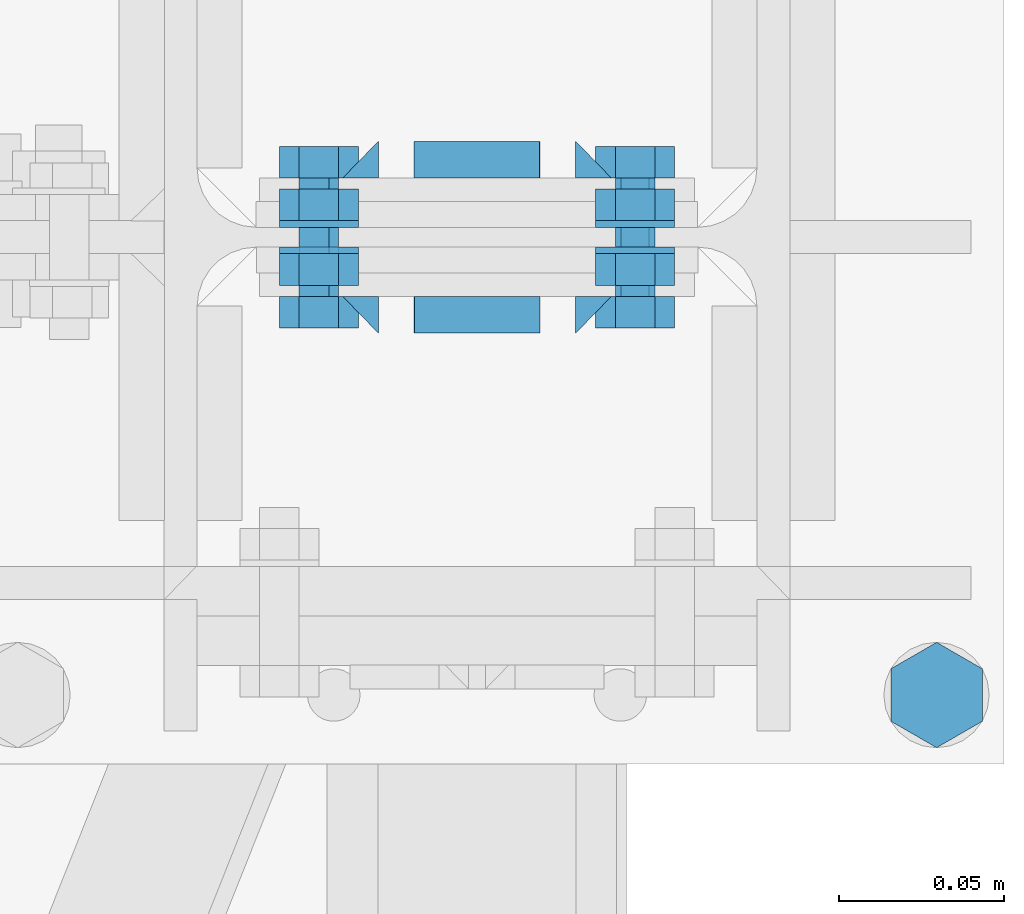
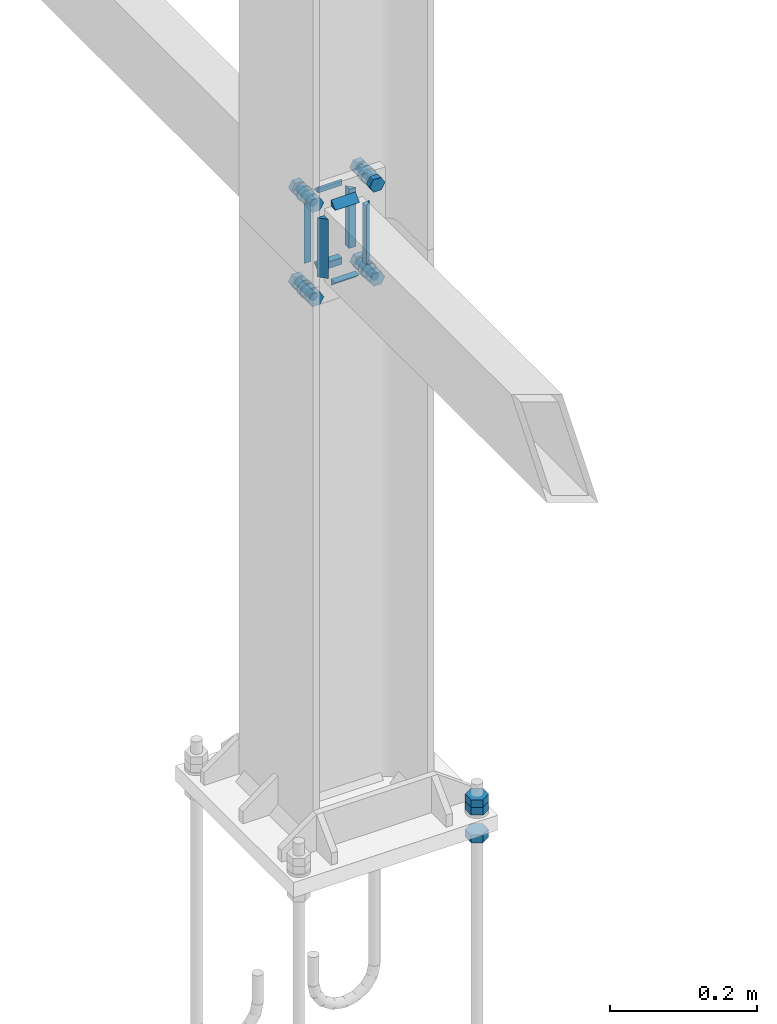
# One storey, part 113 of 251: 34 mechanical fasteners, 16 fasteners.
"""IFC4 building model written with IfcOpenShell, lengths in metres."""

import ifcopenshell
import ifcopenshell.guid

model = None  # the IFC model being written
_history = None  # IfcOwnerHistory: only IFC2X3 demands one
_inside = {}  # id of a spatial element -> (the spatial element, [elements in it])
_under = {}  # id of a project, library or spatial element -> (it, [spatial elements below it])
_declared = {}  # id of a project -> (the project, [libraries it declares])
_typed = {}  # id of a type object -> (the type object, [elements of that type])
_made_of = {}  # id of a material, layer set ... -> (it, [elements and type objects made of it])


def new_model(schema):
    """Start an empty IFC model of exactly this schema.

    Asked for "IFC4X3", IfcOpenShell would pick the latest addendum, in which some entities
    have other attributes; the version numbers below select the first issue.
    IFC2X3 requires an IfcOwnerHistory on every rooted entity: one is made here for all.
    """
    global model, _history
    if schema == "IFC4X3":
        model = ifcopenshell.file(schema_version=(4, 3, 0, 0))
    else:
        model = ifcopenshell.file(schema=schema)
    _inside.clear()
    _under.clear()
    _declared.clear()
    _typed.clear()
    _made_of.clear()
    _history = None
    if model.schema == "IFC2X3":
        org = make("IfcOrganization", Name="unknown")
        user = make(
            "IfcPersonAndOrganization",
            ThePerson=make("IfcPerson", FamilyName="unknown"),
            TheOrganization=org,
        )
        app = make(
            "IfcApplication",
            ApplicationDeveloper=org,
            Version="unknown",
            ApplicationFullName="unknown",
            ApplicationIdentifier="unknown",
        )
        _history = make(
            "IfcOwnerHistory",
            OwningUser=user,
            OwningApplication=app,
            ChangeAction="ADDED",
            CreationDate=0,
        )
    return model


def make(cls, **values):
    """One entity of the class cls with the attributes given. An attribute that is None is left unset."""
    return model.create_entity(
        cls, **{name: value for name, value in values.items() if value is not None}
    )


def rooted(cls, **values):
    """An entity with a GlobalId (a new one), such as an element, a storey or a relation."""
    return make(cls, GlobalId=ifcopenshell.guid.new(), OwnerHistory=_history, **values)


def si_unit(unit_type, name, prefix=None):
    """IfcSIUnit, for example si_unit("LENGTHUNIT", "METRE", prefix="MILLI")."""
    return make("IfcSIUnit", UnitType=unit_type, Prefix=prefix, Name=name)


def assignment(units):
    """IfcUnitAssignment: the units of a project."""
    return None if units is None else make("IfcUnitAssignment", Units=units)


def point(xyz):
    """IfcCartesianPoint."""
    return None if xyz is None else make("IfcCartesianPoint", Coordinates=xyz)


def direction(xyz):
    """IfcDirection."""
    return None if xyz is None else make("IfcDirection", DirectionRatios=xyz)


def frame(location, z_axis=None, x_axis=None):
    """IfcAxis2Placement3D, a coordinate frame: its origin and axes. An axis left out is left unset."""
    return make(
        "IfcAxis2Placement3D",
        Location=point(location),
        Axis=direction(z_axis),
        RefDirection=direction(x_axis),
    )


def origin_with_axes():
    """The frame at (0, 0, 0) with the z axis (0, 0, 1) and the x axis (1, 0, 0) written out."""
    return frame((0.0, 0.0, 0.0), z_axis=(0.0, 0.0, 1.0), x_axis=(1.0, 0.0, 0.0))


def place(relative_to, where):
    """IfcLocalPlacement: puts the frame where relative to a parent placement (None: the world)."""
    return make(
        "IfcLocalPlacement", PlacementRelTo=relative_to, RelativePlacement=where
    )


def context(
    kind, dimensions, precision=None, world=None, true_north=None, identifier=None
):
    """IfcGeometricRepresentationContext, for example the 3D "Model" context."""
    return make(
        "IfcGeometricRepresentationContext",
        ContextIdentifier=identifier,
        ContextType=kind,
        CoordinateSpaceDimension=dimensions,
        Precision=precision,
        WorldCoordinateSystem=world,
        TrueNorth=true_north,
    )


def project(units=None, contexts=None):
    """IfcProject with its units and contexts."""
    return rooted(
        "IfcProject",
        Name="project",
        RepresentationContexts=contexts,
        UnitsInContext=assignment(units),
    )


def spatial(cls, under=None, at=None, **own):
    """A site, building, storey or space (cls), placed at a placement, below another one or the project."""
    s = rooted(cls, ObjectPlacement=at, **own)
    if under is not None:
        _under.setdefault(under.id(), (under, []))[1].append(s)
    return s


def polyline(points):
    """IfcPolyline through the points."""
    return make("IfcPolyline", Points=[point(p) for p in points])


def outline(outer, holes=None, kind="AREA"):
    """IfcArbitraryClosedProfileDef: a profile drawn as a closed curve; with holes, ...WithVoids."""
    if holes is None:
        return make("IfcArbitraryClosedProfileDef", ProfileType=kind, OuterCurve=outer)
    return make(
        "IfcArbitraryProfileDefWithVoids",
        ProfileType=kind,
        OuterCurve=outer,
        InnerCurves=holes,
    )


def extrude(swept, where, along, depth):
    """IfcExtrudedAreaSolid: the profile swept, set in the frame where, extruded along a direction by depth."""
    return make(
        "IfcExtrudedAreaSolid",
        SweptArea=swept,
        Position=where,
        ExtrudedDirection=direction(along),
        Depth=depth,
    )


def shape(context_of_items, identifier, shape_type, items):
    """IfcShapeRepresentation: the items that make up one representation, for example the "Body"."""
    return make(
        "IfcShapeRepresentation",
        ContextOfItems=context_of_items,
        RepresentationIdentifier=identifier,
        RepresentationType=shape_type,
        Items=items,
    )


def made_of(thing, what):
    """Note that an element or type object is made of a material, layer set ...; save() writes the relation."""
    if what is not None:
        _made_of.setdefault(what.id(), (what, []))[1].append(thing)
    return thing


def type_object(cls, material=None, **own):
    """A type object (cls), such as IfcWallType, which elements share."""
    return made_of(rooted(cls, **own), material)


def element(
    cls,
    number,
    at=None,
    inside=None,
    cuts=None,
    type_object=None,
    material=None,
    context=None,
    identifier="Body",
    shape_type=None,
    held_by="IfcProductDefinitionShape",
    body=None,
    shapes=None,
    **own,
):
    """One element of the class cls, such as IfcWall. Its Tag is "e" and its number.

    at: its placement. inside: the storey or other place that contains it. cuts: it is an
    opening in that element (IfcRelVoidsElement). A single representation is given by context,
    identifier, shape_type and body (its items); several are given by shapes. held_by: the class
    of the entity that holds the representations. save() writes the other relations.
    """
    e = rooted(cls, Tag="e%d" % number, ObjectPlacement=at, **own)
    if body is not None:
        shapes = [shape(context, identifier, shape_type, body)]
    if shapes is not None:
        e.Representation = make(held_by, Representations=shapes)
    if inside is not None:
        _inside.setdefault(inside.id(), (inside, []))[1].append(e)
    if cuts is not None:
        rooted(
            "IfcRelVoidsElement", RelatingBuildingElement=cuts, RelatedOpeningElement=e
        )
    if type_object is not None:
        _typed.setdefault(type_object.id(), (type_object, []))[1].append(e)
    return made_of(e, material)


def aggregate(whole, parts):
    """IfcRelAggregates: a whole, such as a stair, and the parts it consists of."""
    return rooted("IfcRelAggregates", RelatingObject=whole, RelatedObjects=parts)


def save(model, path):
    """Write the relations noted so far, then the file.

    IfcRelAggregates (storeys below a building ...), IfcRelContainedInSpatialStructure (elements
    in a storey), IfcRelDefinesByType, IfcRelAssociatesMaterial and IfcRelDeclares: one each for
    every whole, place, type object, material and project.
    """
    for whole, parts in _under.values():
        aggregate(whole, parts)
    for where, things in _inside.values():
        rooted(
            "IfcRelContainedInSpatialStructure",
            RelatedElements=things,
            RelatingStructure=where,
        )
    for kind, things in _typed.values():
        rooted("IfcRelDefinesByType", RelatedObjects=things, RelatingType=kind)
    for what, things in _made_of.values():
        rooted("IfcRelAssociatesMaterial", RelatedObjects=things, RelatingMaterial=what)
    for by, libraries in _declared.values():
        rooted("IfcRelDeclares", RelatingContext=by, RelatedDefinitions=libraries)
    model.write(path)


model = new_model("IFC4")

# Units and contexts
model_context = context("Model", 3, precision=1e-05, world=origin_with_axes())
ifc_project = project(units=[si_unit("LENGTHUNIT", "METRE"), si_unit("AREAUNIT", "SQUARE_METRE"), si_unit("VOLUMEUNIT", "CUBIC_METRE"), si_unit("MASSUNIT", "GRAM", prefix="KILO"), si_unit("TIMEUNIT", "SECOND"), si_unit("PLANEANGLEUNIT", "RADIAN"), si_unit("SOLIDANGLEUNIT", "STERADIAN"), si_unit("THERMODYNAMICTEMPERATUREUNIT", "DEGREE_CELSIUS")], contexts=[model_context])

# Site, building, storey
placement_1 = place(None, origin_with_axes())
site = spatial("IfcSite", under=ifc_project, at=placement_1, Name="Italia", CompositionType="ELEMENT")
building = spatial("IfcBuilding", under=site, at=placement_1, Name="Deposito", CompositionType="ELEMENT")
storey = spatial("IfcBuildingStorey", under=building, at=placement_1, Name="Storey 0", CompositionType="ELEMENT", Elevation=0.0)

# Fasteners
fastener_type_1 = type_object("IfcFastenerType", Name="Collegamenti -001_-002 -002_-001 -002_-003 -003_-002 -003_-004 -004_-003 -004_-008 -008_-004 -009_-010 -010_-009 -010_-011 -011_-010 -011_-012 -012_-011 -012_-016 -016_-012", PredefinedType="WELD")
placement_2 = place(placement_1, origin_with_axes())
fastener_1_placement = place(placement_2, origin_with_axes())
element("IfcFastener", 1, at=fastener_1_placement, inside=storey, type_object=fastener_type_1, Name="Collegamenti -001_-002 -002_-001 -002_-003 -003_-002 -003_-004 -004_-003 -004_-008 -008_-004 -009_-010 -010_-009 -010_-011 -011_-010 -011_-012 -012_-011 -012_-016 -016_-012", context=model_context, shape_type="SweptSolid", body=[
    extrude(outline(polyline([(0.0, 0.0), (0.0111732, -0.0108382), (0.0, -0.0108382), (0.0, 0.0)])), frame((20.0191, 4.98205, 1.07079), z_axis=(-1.0, 0.0, 0.0), x_axis=(0.0, -1.0, 0.0)), (0.0, 0.0, 1.0), 0.0381012),
])
fastener_type_2 = type_object("IfcFastenerType", Name="Collegamenti -001_-002 -002_-001 -002_-003 -003_-002 -003_-004 -004_-003 -004_-008 -008_-004 -009_-010 -010_-009 -010_-011 -011_-010 -011_-012 -012_-011 -012_-016 -016_-012", PredefinedType="WELD")
fastener_2_placement = place(placement_2, origin_with_axes())
element("IfcFastener", 2, at=fastener_2_placement, inside=storey, type_object=fastener_type_2, Name="Collegamenti -001_-002 -002_-001 -002_-003 -003_-002 -003_-004 -004_-003 -004_-008 -008_-004 -009_-010 -010_-009 -010_-011 -011_-010 -011_-012 -012_-011 -012_-016 -016_-012", context=model_context, shape_type="SweptSolid", body=[
    extrude(outline(polyline([(0.0, 0.0), (-0.0111732, 0.0108376), (0.0, 0.0108376), (0.0, 0.0)])), frame((20.0408, 4.98205, 0.95095), z_axis=(0.0, 0.0, 1.0), x_axis=(0.0, 1.0, 0.0)), (0.0, 0.0, 1.0), 0.0980999),
])
fastener_type_3 = type_object("IfcFastenerType", Name="Collegamenti -001_-002 -002_-001 -002_-003 -003_-002 -003_-004 -004_-003 -004_-008 -008_-004 -009_-010 -010_-009 -010_-011 -011_-010 -011_-012 -012_-011 -012_-016 -016_-012", PredefinedType="WELD")
fastener_3_placement = place(placement_2, origin_with_axes())
element("IfcFastener", 3, at=fastener_3_placement, inside=storey, type_object=fastener_type_3, Name="Collegamenti -001_-002 -002_-001 -002_-003 -003_-002 -003_-004 -004_-003 -004_-008 -008_-004 -009_-010 -010_-009 -010_-011 -011_-010 -011_-012 -012_-011 -012_-016 -016_-012", context=model_context, shape_type="SweptSolid", body=[
    extrude(outline(polyline([(0.0, 0.0), (-0.0111732, 0.0108376), (0.0, 0.0108376), (0.0, 0.0)])), frame((19.9592, 4.98205, 1.04905), z_axis=(0.0, 0.0, -1.0), x_axis=(0.0, 1.0, 0.0)), (0.0, 0.0, 1.0), 0.0980999),
])
fastener_type_4 = type_object("IfcFastenerType", Name="Collegamenti -001_-002 -002_-001 -002_-003 -003_-002 -003_-004 -004_-003 -004_-008 -008_-004 -009_-010 -010_-009 -010_-011 -011_-010 -011_-012 -012_-011 -012_-016 -016_-012", PredefinedType="WELD")
fastener_4_placement = place(placement_2, origin_with_axes())
element("IfcFastener", 4, at=fastener_4_placement, inside=storey, type_object=fastener_type_4, Name="Collegamenti -001_-002 -002_-001 -002_-003 -003_-002 -003_-004 -004_-003 -004_-008 -008_-004 -009_-010 -010_-009 -010_-011 -011_-010 -011_-012 -012_-011 -012_-016 -016_-012", context=model_context, shape_type="SweptSolid", body=[
    extrude(outline(polyline([(0.0, 0.0), (-0.0111732, 0.0108382), (0.0, 0.0108382), (0.0, 0.0)])), frame((19.9809, 4.98205, 0.929212), z_axis=(1.0, 0.0, 0.0), x_axis=(0.0, 1.0, 0.0)), (0.0, 0.0, 1.0), 0.0381012),
])
fastener_type_5 = type_object("IfcFastenerType", Name="Collegamenti -001_-002 -002_-001 -002_-003 -003_-002 -003_-004 -004_-003 -004_-008 -008_-004 -009_-010 -010_-009 -010_-011 -011_-010 -011_-012 -012_-011 -012_-016 -016_-012", PredefinedType="WELD")
fastener_5_placement = place(placement_2, origin_with_axes())
element("IfcFastener", 5, at=fastener_5_placement, inside=storey, type_object=fastener_type_5, Name="Collegamenti -001_-002 -002_-001 -002_-003 -003_-002 -003_-004 -004_-003 -004_-008 -008_-004 -009_-010 -010_-009 -010_-011 -011_-010 -011_-012 -012_-011 -012_-016 -016_-012", context=model_context, shape_type="SweptSolid", body=[
    extrude(outline(polyline([(0.0, 0.0), (0.0111732, -0.0108382), (0.0, -0.0108382), (0.0, 0.0)])), frame((20.0191, 4.98205, 1.07079), z_axis=(-1.0, 0.0, 0.0), x_axis=(0.0, -1.0, 0.0)), (0.0, 0.0, 1.0), 0.0381012),
])
fastener_type_6 = type_object("IfcFastenerType", Name="Collegamenti -001_-002 -002_-001 -002_-003 -003_-002 -003_-004 -004_-003 -004_-008 -008_-004 -009_-010 -010_-009 -010_-011 -011_-010 -011_-012 -012_-011 -012_-016 -016_-012", PredefinedType="WELD")
fastener_6_placement = place(placement_2, origin_with_axes())
element("IfcFastener", 6, at=fastener_6_placement, inside=storey, type_object=fastener_type_6, Name="Collegamenti -001_-002 -002_-001 -002_-003 -003_-002 -003_-004 -004_-003 -004_-008 -008_-004 -009_-010 -010_-009 -010_-011 -011_-010 -011_-012 -012_-011 -012_-016 -016_-012", context=model_context, shape_type="SweptSolid", body=[
    extrude(outline(polyline([(0.0, 0.0), (-0.0111732, 0.0108376), (0.0, 0.0108376), (0.0, 0.0)])), frame((20.0408, 4.98205, 0.95095), z_axis=(0.0, 0.0, 1.0), x_axis=(0.0, 1.0, 0.0)), (0.0, 0.0, 1.0), 0.0980999),
])
fastener_type_7 = type_object("IfcFastenerType", Name="Collegamenti -001_-002 -002_-001 -002_-003 -003_-002 -003_-004 -004_-003 -004_-008 -008_-004 -009_-010 -010_-009 -010_-011 -011_-010 -011_-012 -012_-011 -012_-016 -016_-012", PredefinedType="WELD")
fastener_7_placement = place(placement_2, origin_with_axes())
element("IfcFastener", 7, at=fastener_7_placement, inside=storey, type_object=fastener_type_7, Name="Collegamenti -001_-002 -002_-001 -002_-003 -003_-002 -003_-004 -004_-003 -004_-008 -008_-004 -009_-010 -010_-009 -010_-011 -011_-010 -011_-012 -012_-011 -012_-016 -016_-012", context=model_context, shape_type="SweptSolid", body=[
    extrude(outline(polyline([(0.0, 0.0), (-0.0111732, 0.0108376), (0.0, 0.0108376), (0.0, 0.0)])), frame((19.9592, 4.98205, 1.04905), z_axis=(0.0, 0.0, -1.0), x_axis=(0.0, 1.0, 0.0)), (0.0, 0.0, 1.0), 0.0980999),
])
fastener_type_8 = type_object("IfcFastenerType", Name="Collegamenti -001_-002 -002_-001 -002_-003 -003_-002 -003_-004 -004_-003 -004_-008 -008_-004 -009_-010 -010_-009 -010_-011 -011_-010 -011_-012 -012_-011 -012_-016 -016_-012", PredefinedType="WELD")
fastener_8_placement = place(placement_2, origin_with_axes())
element("IfcFastener", 8, at=fastener_8_placement, inside=storey, type_object=fastener_type_8, Name="Collegamenti -001_-002 -002_-001 -002_-003 -003_-002 -003_-004 -004_-003 -004_-008 -008_-004 -009_-010 -010_-009 -010_-011 -011_-010 -011_-012 -012_-011 -012_-016 -016_-012", context=model_context, shape_type="SweptSolid", body=[
    extrude(outline(polyline([(0.0, 0.0), (-0.0111732, 0.0108382), (0.0, 0.0108382), (0.0, 0.0)])), frame((19.9809, 4.98205, 0.929212), z_axis=(1.0, 0.0, 0.0), x_axis=(0.0, 1.0, 0.0)), (0.0, 0.0, 1.0), 0.0381012),
])

# Mechanical fasteners
mechanical_fastener_type_1 = type_object("IfcMechanicalFastenerType", Name="Collegamenti -001_-002 -002_-001 -002_-003 -003_-002 -003_-004 -004_-003 -004_-008 -008_-004 -009_-010 -010_-009 -010_-011 -011_-010 -011_-012 -012_-011 -012_-016 -016_-012", PredefinedType="BOLT")
mechanical_fastener_1_placement = place(placement_2, origin_with_axes())
element("IfcMechanicalFastener", 9, at=mechanical_fastener_1_placement, inside=storey, type_object=mechanical_fastener_type_1, Name="Collegamenti -001_-002 -002_-001 -002_-003 -003_-002 -003_-004 -004_-003 -004_-008 -008_-004 -009_-010 -010_-009 -010_-011 -011_-010 -011_-012 -012_-011 -012_-016 -016_-012", NominalDiameter=0.0119993, context=model_context, shape_type="SweptSolid", body=[
    extrude(outline(polyline([(0.0, 0.0), (-0.012001, 0.0), (-0.0179996, 0.0103923), (-0.012001, 0.0207846), (0.0, 0.0207846), (0.00600052, 0.0103923), (0.0, 0.0)])), frame((19.958, 4.982, 0.911608), z_axis=(0.0, -1.0, 0.0), x_axis=(1.0, 0.0, 0.0)), (0.0, 0.0, 1.0), 0.00959969),
])
mechanical_fastener_type_2 = type_object("IfcMechanicalFastenerType", Name="Collegamenti -001_-002 -002_-001 -002_-003 -003_-002 -003_-004 -004_-003 -004_-008 -008_-004 -009_-010 -010_-009 -010_-011 -011_-010 -011_-012 -012_-011 -012_-016 -016_-012", PredefinedType="BOLT")
mechanical_fastener_2_placement = place(placement_2, origin_with_axes())
element("IfcMechanicalFastener", 10, at=mechanical_fastener_2_placement, inside=storey, type_object=mechanical_fastener_type_2, Name="Collegamenti -001_-002 -002_-001 -002_-003 -003_-002 -003_-004 -004_-003 -004_-008 -008_-004 -009_-010 -010_-009 -010_-011 -011_-010 -011_-012 -012_-011 -012_-016 -016_-012", NominalDiameter=0.012, context=model_context, shape_type="SweptSolid", body=[
    extrude(outline(polyline([(0.0, 0.0), (-0.000204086, -0.00155294), (-0.000804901, -0.00300002), (-0.00175858, -0.00424266), (-0.00300026, -0.00519615), (-0.00444794, -0.00579554), (-0.00600052, -0.00599998), (-0.0075531, -0.00579554), (-0.00900078, -0.00519615), (-0.0102425, -0.00424266), (-0.0111961, -0.00300002), (-0.011797, -0.00155294), (-0.012001, 0.0), (-0.011797, 0.00155294), (-0.0111961, 0.00300002), (-0.0102425, 0.00424266), (-0.00900078, 0.00519615), (-0.0075531, 0.00579554), (-0.00600052, 0.00599998), (-0.00444794, 0.00579554), (-0.00300026, 0.00519615), (-0.00175858, 0.00424266), (-0.000804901, 0.00300002), (-0.000204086, 0.00155294), (0.0, 0.0)])), frame((19.958, 5.021, 0.922), z_axis=(0.0, -1.0, 0.0), x_axis=(1.0, 0.0, 0.0)), (0.0, 0.0, 1.0), 0.039),
])
mechanical_fastener_type_3 = type_object("IfcMechanicalFastenerType", Name="Collegamenti -001_-002 -002_-001 -002_-003 -003_-002 -003_-004 -004_-003 -004_-008 -008_-004 -009_-010 -010_-009 -010_-011 -011_-010 -011_-012 -012_-011 -012_-016 -016_-012", PredefinedType="BOLT")
mechanical_fastener_3_placement = place(placement_2, origin_with_axes())
element("IfcMechanicalFastener", 11, at=mechanical_fastener_3_placement, inside=storey, type_object=mechanical_fastener_type_3, Name="Collegamenti -001_-002 -002_-001 -002_-003 -003_-002 -003_-004 -004_-003 -004_-008 -008_-004 -009_-010 -010_-009 -010_-011 -011_-010 -011_-012 -012_-011 -012_-016 -016_-012", NominalDiameter=0.0119993, context=model_context, shape_type="SweptSolid", body=[
    extrude(outline(polyline([(0.0, 0.0), (-0.012001, 0.0), (-0.0179996, 0.0103923), (-0.012001, 0.0207846), (0.0, 0.0207846), (0.00600052, 0.0103923), (0.0, 0.0)])), frame((19.958, 5.0146, 0.911608), z_axis=(0.0, -1.0, 0.0), x_axis=(1.0, 0.0, 0.0)), (0.0, 0.0, 1.0), 0.00959969),
])
mechanical_fastener_type_4 = type_object("IfcMechanicalFastenerType", Name="Collegamenti -001_-002 -002_-001 -002_-003 -003_-002 -003_-004 -004_-003 -004_-008 -008_-004 -009_-010 -010_-009 -010_-011 -011_-010 -011_-012 -012_-011 -012_-016 -016_-012", PredefinedType="BOLT")
mechanical_fastener_4_placement = place(placement_2, origin_with_axes())
element("IfcMechanicalFastener", 12, at=mechanical_fastener_4_placement, inside=storey, type_object=mechanical_fastener_type_4, Name="Collegamenti -001_-002 -002_-001 -002_-003 -003_-002 -003_-004 -004_-003 -004_-008 -008_-004 -009_-010 -010_-009 -010_-011 -011_-010 -011_-012 -012_-011 -012_-016 -016_-012", NominalDiameter=0.024, context=model_context, shape_type="SweptSolid", body=[
    extrude(outline(polyline([(0.0, 0.0), (-0.000408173, -0.00310582), (-0.00160599, -0.00599998), (-0.00351334, -0.00848526), (-0.00599861, -0.0103923), (-0.00889397, -0.0115911), (-0.0119991, -0.012), (-0.0151043, -0.0115911), (-0.0179996, -0.0103923), (-0.0204849, -0.00848526), (-0.0223923, -0.00599998), (-0.0235901, -0.00310582), (-0.0239983, 0.0), (-0.0235901, 0.00310582), (-0.0223923, 0.00599998), (-0.0204849, 0.00848526), (-0.0179996, 0.0103923), (-0.0151043, 0.0115911), (-0.0119991, 0.012), (-0.00889397, 0.0115911), (-0.00599861, 0.0103923), (-0.00351334, 0.00848526), (-0.00160599, 0.00599998), (-0.000408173, 0.00310582), (0.0, 0.0)])), frame((19.964, 5.005, 0.922), z_axis=(0.0, -1.0, 0.0), x_axis=(1.0, 0.0, 0.0)), (0.0, 0.0, 1.0), 0.00200033),
])
mechanical_fastener_type_5 = type_object("IfcMechanicalFastenerType", Name="Collegamenti -001_-002 -002_-001 -002_-003 -003_-002 -003_-004 -004_-003 -004_-008 -008_-004 -009_-010 -010_-009 -010_-011 -011_-010 -011_-012 -012_-011 -012_-016 -016_-012", PredefinedType="BOLT")
mechanical_fastener_5_placement = place(placement_2, origin_with_axes())
element("IfcMechanicalFastener", 13, at=mechanical_fastener_5_placement, inside=storey, type_object=mechanical_fastener_type_5, Name="Collegamenti -001_-002 -002_-001 -002_-003 -003_-002 -003_-004 -004_-003 -004_-008 -008_-004 -009_-010 -010_-009 -010_-011 -011_-010 -011_-012 -012_-011 -012_-016 -016_-012", NominalDiameter=0.0119993, context=model_context, shape_type="SweptSolid", body=[
    extrude(outline(polyline([(0.0, 0.0), (-0.012001, 0.0), (-0.0180016, 0.0103923), (-0.012001, 0.0207846), (0.0, 0.0207846), (0.00599861, 0.0103923), (0.0, 0.0)])), frame((20.054, 4.982, 0.911608), z_axis=(0.0, -1.0, 0.0), x_axis=(1.0, 0.0, 0.0)), (0.0, 0.0, 1.0), 0.00959969),
])
mechanical_fastener_type_6 = type_object("IfcMechanicalFastenerType", Name="Collegamenti -001_-002 -002_-001 -002_-003 -003_-002 -003_-004 -004_-003 -004_-008 -008_-004 -009_-010 -010_-009 -010_-011 -011_-010 -011_-012 -012_-011 -012_-016 -016_-012", PredefinedType="BOLT")
mechanical_fastener_6_placement = place(placement_2, origin_with_axes())
element("IfcMechanicalFastener", 14, at=mechanical_fastener_6_placement, inside=storey, type_object=mechanical_fastener_type_6, Name="Collegamenti -001_-002 -002_-001 -002_-003 -003_-002 -003_-004 -004_-003 -004_-008 -008_-004 -009_-010 -010_-009 -010_-011 -011_-010 -011_-012 -012_-011 -012_-016 -016_-012", NominalDiameter=0.012, context=model_context, shape_type="SweptSolid", body=[
    extrude(outline(polyline([(0.0, 0.0), (-0.000204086, -0.00155294), (-0.000804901, -0.00300002), (-0.00175858, -0.00424266), (-0.00300026, -0.00519615), (-0.00444794, -0.00579554), (-0.00600052, -0.00599998), (-0.0075531, -0.00579554), (-0.00900078, -0.00519615), (-0.0102425, -0.00424266), (-0.0111961, -0.00300002), (-0.011797, -0.00155294), (-0.012001, 0.0), (-0.011797, 0.00155294), (-0.0111961, 0.00300002), (-0.0102425, 0.00424266), (-0.00900078, 0.00519615), (-0.0075531, 0.00579554), (-0.00600052, 0.00599998), (-0.00444794, 0.00579554), (-0.00300026, 0.00519615), (-0.00175858, 0.00424266), (-0.000804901, 0.00300002), (-0.000204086, 0.00155294), (0.0, 0.0)])), frame((20.054, 5.021, 0.922), z_axis=(0.0, -1.0, 0.0), x_axis=(1.0, 0.0, 0.0)), (0.0, 0.0, 1.0), 0.039),
])
mechanical_fastener_type_7 = type_object("IfcMechanicalFastenerType", Name="Collegamenti -001_-002 -002_-001 -002_-003 -003_-002 -003_-004 -004_-003 -004_-008 -008_-004 -009_-010 -010_-009 -010_-011 -011_-010 -011_-012 -012_-011 -012_-016 -016_-012", PredefinedType="BOLT")
mechanical_fastener_7_placement = place(placement_2, origin_with_axes())
element("IfcMechanicalFastener", 15, at=mechanical_fastener_7_placement, inside=storey, type_object=mechanical_fastener_type_7, Name="Collegamenti -001_-002 -002_-001 -002_-003 -003_-002 -003_-004 -004_-003 -004_-008 -008_-004 -009_-010 -010_-009 -010_-011 -011_-010 -011_-012 -012_-011 -012_-016 -016_-012", NominalDiameter=0.0119993, context=model_context, shape_type="SweptSolid", body=[
    extrude(outline(polyline([(0.0, 0.0), (-0.012001, 0.0), (-0.0180016, 0.0103923), (-0.012001, 0.0207846), (0.0, 0.0207846), (0.00599861, 0.0103923), (0.0, 0.0)])), frame((20.054, 5.0146, 0.911608), z_axis=(0.0, -1.0, 0.0), x_axis=(1.0, 0.0, 0.0)), (0.0, 0.0, 1.0), 0.00959969),
])
mechanical_fastener_type_8 = type_object("IfcMechanicalFastenerType", Name="Collegamenti -001_-002 -002_-001 -002_-003 -003_-002 -003_-004 -004_-003 -004_-008 -008_-004 -009_-010 -010_-009 -010_-011 -011_-010 -011_-012 -012_-011 -012_-016 -016_-012", PredefinedType="BOLT")
mechanical_fastener_8_placement = place(placement_2, origin_with_axes())
element("IfcMechanicalFastener", 16, at=mechanical_fastener_8_placement, inside=storey, type_object=mechanical_fastener_type_8, Name="Collegamenti -001_-002 -002_-001 -002_-003 -003_-002 -003_-004 -004_-003 -004_-008 -008_-004 -009_-010 -010_-009 -010_-011 -011_-010 -011_-012 -012_-011 -012_-016 -016_-012", NominalDiameter=0.024, context=model_context, shape_type="SweptSolid", body=[
    extrude(outline(polyline([(0.0, 0.0), (-0.000408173, -0.00310582), (-0.00160599, -0.00599998), (-0.00351334, -0.00848526), (-0.00599861, -0.0103923), (-0.00889397, -0.0115911), (-0.0119991, -0.012), (-0.0151043, -0.0115911), (-0.0179996, -0.0103923), (-0.0204849, -0.00848526), (-0.0223923, -0.00599998), (-0.0235901, -0.00310582), (-0.0239983, 0.0), (-0.0235901, 0.00310582), (-0.0223923, 0.00599998), (-0.0204849, 0.00848526), (-0.0179996, 0.0103923), (-0.0151043, 0.0115911), (-0.0119991, 0.012), (-0.00889397, 0.0115911), (-0.00599861, 0.0103923), (-0.00351334, 0.00848526), (-0.00160599, 0.00599998), (-0.000408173, 0.00310582), (0.0, 0.0)])), frame((20.06, 5.005, 0.922), z_axis=(0.0, -1.0, 0.0), x_axis=(1.0, 0.0, 0.0)), (0.0, 0.0, 1.0), 0.00200033),
])
mechanical_fastener_type_9 = type_object("IfcMechanicalFastenerType", Name="Collegamenti -001_-002 -002_-001 -002_-003 -003_-002 -003_-004 -004_-003 -004_-008 -008_-004 -009_-010 -010_-009 -010_-011 -011_-010 -011_-012 -012_-011 -012_-016 -016_-012", PredefinedType="BOLT")
mechanical_fastener_9_placement = place(placement_2, origin_with_axes())
element("IfcMechanicalFastener", 17, at=mechanical_fastener_9_placement, inside=storey, type_object=mechanical_fastener_type_9, Name="Collegamenti -001_-002 -002_-001 -002_-003 -003_-002 -003_-004 -004_-003 -004_-008 -008_-004 -009_-010 -010_-009 -010_-011 -011_-010 -011_-012 -012_-011 -012_-016 -016_-012", NominalDiameter=0.0119993, context=model_context, shape_type="SweptSolid", body=[
    extrude(outline(polyline([(0.0, 0.0), (-0.012001, 0.0), (-0.0179996, 0.0103923), (-0.012001, 0.0207846), (0.0, 0.0207846), (0.00600052, 0.0103923), (0.0, 0.0)])), frame((19.958, 4.982, 1.06761), z_axis=(0.0, -1.0, 0.0), x_axis=(1.0, 0.0, 0.0)), (0.0, 0.0, 1.0), 0.00959969),
])
mechanical_fastener_type_10 = type_object("IfcMechanicalFastenerType", Name="Collegamenti -001_-002 -002_-001 -002_-003 -003_-002 -003_-004 -004_-003 -004_-008 -008_-004 -009_-010 -010_-009 -010_-011 -011_-010 -011_-012 -012_-011 -012_-016 -016_-012", PredefinedType="BOLT")
mechanical_fastener_10_placement = place(placement_2, origin_with_axes())
element("IfcMechanicalFastener", 18, at=mechanical_fastener_10_placement, inside=storey, type_object=mechanical_fastener_type_10, Name="Collegamenti -001_-002 -002_-001 -002_-003 -003_-002 -003_-004 -004_-003 -004_-008 -008_-004 -009_-010 -010_-009 -010_-011 -011_-010 -011_-012 -012_-011 -012_-016 -016_-012", NominalDiameter=0.012, context=model_context, shape_type="SweptSolid", body=[
    extrude(outline(polyline([(0.0, 0.0), (-0.000204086, -0.00155294), (-0.000804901, -0.00300002), (-0.00175858, -0.00424266), (-0.00300026, -0.00519609), (-0.00444794, -0.0057956), (-0.00600052, -0.00600004), (-0.0075531, -0.0057956), (-0.00900078, -0.00519609), (-0.0102425, -0.00424266), (-0.0111961, -0.00300002), (-0.011797, -0.00155294), (-0.012001, 0.0), (-0.011797, 0.00155294), (-0.0111961, 0.00300002), (-0.0102425, 0.00424266), (-0.00900078, 0.00519609), (-0.0075531, 0.0057956), (-0.00600052, 0.00600004), (-0.00444794, 0.0057956), (-0.00300026, 0.00519609), (-0.00175858, 0.00424266), (-0.000804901, 0.00300002), (-0.000204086, 0.00155294), (0.0, 0.0)])), frame((19.958, 5.021, 1.078), z_axis=(0.0, -1.0, 0.0), x_axis=(1.0, 0.0, 0.0)), (0.0, 0.0, 1.0), 0.039),
])
mechanical_fastener_type_11 = type_object("IfcMechanicalFastenerType", Name="Collegamenti -001_-002 -002_-001 -002_-003 -003_-002 -003_-004 -004_-003 -004_-008 -008_-004 -009_-010 -010_-009 -010_-011 -011_-010 -011_-012 -012_-011 -012_-016 -016_-012", PredefinedType="BOLT")
mechanical_fastener_11_placement = place(placement_2, origin_with_axes())
element("IfcMechanicalFastener", 19, at=mechanical_fastener_11_placement, inside=storey, type_object=mechanical_fastener_type_11, Name="Collegamenti -001_-002 -002_-001 -002_-003 -003_-002 -003_-004 -004_-003 -004_-008 -008_-004 -009_-010 -010_-009 -010_-011 -011_-010 -011_-012 -012_-011 -012_-016 -016_-012", NominalDiameter=0.0119993, context=model_context, shape_type="SweptSolid", body=[
    extrude(outline(polyline([(0.0, 0.0), (-0.012001, 0.0), (-0.0179996, 0.0103923), (-0.012001, 0.0207846), (0.0, 0.0207846), (0.00600052, 0.0103923), (0.0, 0.0)])), frame((19.958, 5.0146, 1.06761), z_axis=(0.0, -1.0, 0.0), x_axis=(1.0, 0.0, 0.0)), (0.0, 0.0, 1.0), 0.00959969),
])
mechanical_fastener_type_12 = type_object("IfcMechanicalFastenerType", Name="Collegamenti -001_-002 -002_-001 -002_-003 -003_-002 -003_-004 -004_-003 -004_-008 -008_-004 -009_-010 -010_-009 -010_-011 -011_-010 -011_-012 -012_-011 -012_-016 -016_-012", PredefinedType="BOLT")
mechanical_fastener_12_placement = place(placement_2, origin_with_axes())
element("IfcMechanicalFastener", 20, at=mechanical_fastener_12_placement, inside=storey, type_object=mechanical_fastener_type_12, Name="Collegamenti -001_-002 -002_-001 -002_-003 -003_-002 -003_-004 -004_-003 -004_-008 -008_-004 -009_-010 -010_-009 -010_-011 -011_-010 -011_-012 -012_-011 -012_-016 -016_-012", NominalDiameter=0.024, context=model_context, shape_type="SweptSolid", body=[
    extrude(outline(polyline([(0.0, 0.0), (-0.000408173, -0.00310588), (-0.00160599, -0.00600004), (-0.00351334, -0.00848532), (-0.00599861, -0.0103923), (-0.00889397, -0.0115911), (-0.0119991, -0.012), (-0.0151043, -0.0115911), (-0.0179996, -0.0103923), (-0.0204849, -0.00848532), (-0.0223923, -0.00600004), (-0.0235901, -0.00310588), (-0.0239983, 0.0), (-0.0235901, 0.00310588), (-0.0223923, 0.00600004), (-0.0204849, 0.00848532), (-0.0179996, 0.0103923), (-0.0151043, 0.0115911), (-0.0119991, 0.012), (-0.00889397, 0.0115911), (-0.00599861, 0.0103923), (-0.00351334, 0.00848532), (-0.00160599, 0.00600004), (-0.000408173, 0.00310588), (0.0, 0.0)])), frame((19.964, 5.005, 1.078), z_axis=(0.0, -1.0, 0.0), x_axis=(1.0, 0.0, 0.0)), (0.0, 0.0, 1.0), 0.00200033),
])
mechanical_fastener_type_13 = type_object("IfcMechanicalFastenerType", Name="Collegamenti -001_-002 -002_-001 -002_-003 -003_-002 -003_-004 -004_-003 -004_-008 -008_-004 -009_-010 -010_-009 -010_-011 -011_-010 -011_-012 -012_-011 -012_-016 -016_-012", PredefinedType="BOLT")
mechanical_fastener_13_placement = place(placement_2, origin_with_axes())
element("IfcMechanicalFastener", 21, at=mechanical_fastener_13_placement, inside=storey, type_object=mechanical_fastener_type_13, Name="Collegamenti -001_-002 -002_-001 -002_-003 -003_-002 -003_-004 -004_-003 -004_-008 -008_-004 -009_-010 -010_-009 -010_-011 -011_-010 -011_-012 -012_-011 -012_-016 -016_-012", NominalDiameter=0.0119993, context=model_context, shape_type="SweptSolid", body=[
    extrude(outline(polyline([(0.0, 0.0), (-0.012001, 0.0), (-0.0180016, 0.0103923), (-0.012001, 0.0207846), (0.0, 0.0207846), (0.00599861, 0.0103923), (0.0, 0.0)])), frame((20.054, 4.982, 1.06761), z_axis=(0.0, -1.0, 0.0), x_axis=(1.0, 0.0, 0.0)), (0.0, 0.0, 1.0), 0.00959969),
])
mechanical_fastener_type_14 = type_object("IfcMechanicalFastenerType", Name="Collegamenti -001_-002 -002_-001 -002_-003 -003_-002 -003_-004 -004_-003 -004_-008 -008_-004 -009_-010 -010_-009 -010_-011 -011_-010 -011_-012 -012_-011 -012_-016 -016_-012", PredefinedType="BOLT")
mechanical_fastener_14_placement = place(placement_2, origin_with_axes())
element("IfcMechanicalFastener", 22, at=mechanical_fastener_14_placement, inside=storey, type_object=mechanical_fastener_type_14, Name="Collegamenti -001_-002 -002_-001 -002_-003 -003_-002 -003_-004 -004_-003 -004_-008 -008_-004 -009_-010 -010_-009 -010_-011 -011_-010 -011_-012 -012_-011 -012_-016 -016_-012", NominalDiameter=0.012, context=model_context, shape_type="SweptSolid", body=[
    extrude(outline(polyline([(0.0, 0.0), (-0.000204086, -0.00155294), (-0.000804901, -0.00300002), (-0.00175858, -0.00424266), (-0.00300026, -0.00519609), (-0.00444794, -0.0057956), (-0.00600052, -0.00600004), (-0.0075531, -0.0057956), (-0.00900078, -0.00519609), (-0.0102425, -0.00424266), (-0.0111961, -0.00300002), (-0.011797, -0.00155294), (-0.012001, 0.0), (-0.011797, 0.00155294), (-0.0111961, 0.00300002), (-0.0102425, 0.00424266), (-0.00900078, 0.00519609), (-0.0075531, 0.0057956), (-0.00600052, 0.00600004), (-0.00444794, 0.0057956), (-0.00300026, 0.00519609), (-0.00175858, 0.00424266), (-0.000804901, 0.00300002), (-0.000204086, 0.00155294), (0.0, 0.0)])), frame((20.054, 5.021, 1.078), z_axis=(0.0, -1.0, 0.0), x_axis=(1.0, 0.0, 0.0)), (0.0, 0.0, 1.0), 0.039),
])
mechanical_fastener_type_15 = type_object("IfcMechanicalFastenerType", Name="Collegamenti -001_-002 -002_-001 -002_-003 -003_-002 -003_-004 -004_-003 -004_-008 -008_-004 -009_-010 -010_-009 -010_-011 -011_-010 -011_-012 -012_-011 -012_-016 -016_-012", PredefinedType="BOLT")
mechanical_fastener_15_placement = place(placement_2, origin_with_axes())
element("IfcMechanicalFastener", 23, at=mechanical_fastener_15_placement, inside=storey, type_object=mechanical_fastener_type_15, Name="Collegamenti -001_-002 -002_-001 -002_-003 -003_-002 -003_-004 -004_-003 -004_-008 -008_-004 -009_-010 -010_-009 -010_-011 -011_-010 -011_-012 -012_-011 -012_-016 -016_-012", NominalDiameter=0.0119993, context=model_context, shape_type="SweptSolid", body=[
    extrude(outline(polyline([(0.0, 0.0), (-0.012001, 0.0), (-0.0180016, 0.0103923), (-0.012001, 0.0207846), (0.0, 0.0207846), (0.00599861, 0.0103923), (0.0, 0.0)])), frame((20.054, 5.0146, 1.06761), z_axis=(0.0, -1.0, 0.0), x_axis=(1.0, 0.0, 0.0)), (0.0, 0.0, 1.0), 0.00959969),
])
mechanical_fastener_type_16 = type_object("IfcMechanicalFastenerType", Name="Collegamenti -001_-002 -002_-001 -002_-003 -003_-002 -003_-004 -004_-003 -004_-008 -008_-004 -009_-010 -010_-009 -010_-011 -011_-010 -011_-012 -012_-011 -012_-016 -016_-012", PredefinedType="BOLT")
mechanical_fastener_16_placement = place(placement_2, origin_with_axes())
element("IfcMechanicalFastener", 24, at=mechanical_fastener_16_placement, inside=storey, type_object=mechanical_fastener_type_16, Name="Collegamenti -001_-002 -002_-001 -002_-003 -003_-002 -003_-004 -004_-003 -004_-008 -008_-004 -009_-010 -010_-009 -010_-011 -011_-010 -011_-012 -012_-011 -012_-016 -016_-012", NominalDiameter=0.024, context=model_context, shape_type="SweptSolid", body=[
    extrude(outline(polyline([(0.0, 0.0), (-0.000408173, -0.00310588), (-0.00160599, -0.00600004), (-0.00351334, -0.00848532), (-0.00599861, -0.0103923), (-0.00889397, -0.0115911), (-0.0119991, -0.012), (-0.0151043, -0.0115911), (-0.0179996, -0.0103923), (-0.0204849, -0.00848532), (-0.0223923, -0.00600004), (-0.0235901, -0.00310588), (-0.0239983, 0.0), (-0.0235901, 0.00310588), (-0.0223923, 0.00600004), (-0.0204849, 0.00848532), (-0.0179996, 0.0103923), (-0.0151043, 0.0115911), (-0.0119991, 0.012), (-0.00889397, 0.0115911), (-0.00599861, 0.0103923), (-0.00351334, 0.00848532), (-0.00160599, 0.00600004), (-0.000408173, 0.00310588), (0.0, 0.0)])), frame((20.06, 5.005, 1.078), z_axis=(0.0, -1.0, 0.0), x_axis=(1.0, 0.0, 0.0)), (0.0, 0.0, 1.0), 0.00200033),
])

# Fasteners
fastener_type_9 = type_object("IfcFastenerType", Name="Collegamenti -001_-002 -002_-001 -002_-003 -003_-002 -003_-004 -004_-003 -004_-008 -008_-004 -009_-010 -010_-009 -010_-011 -011_-010 -011_-012 -012_-011 -012_-016 -016_-012", PredefinedType="WELD")
fastener_9_placement = place(placement_2, origin_with_axes())
element("IfcFastener", 25, at=fastener_9_placement, inside=storey, type_object=fastener_type_9, Name="Collegamenti -001_-002 -002_-001 -002_-003 -003_-002 -003_-004 -004_-003 -004_-008 -008_-004 -009_-010 -010_-009 -010_-011 -011_-010 -011_-012 -012_-011 -012_-016 -016_-012", context=model_context, shape_type="SweptSolid", body=[
    extrude(outline(polyline([(0.0, 0.0), (0.0111732, -0.0108382), (0.0, -0.0108382), (0.0, 0.0)])), frame((19.9809, 5.01795, 1.07079), z_axis=(1.0, 0.0, 0.0), x_axis=(0.0, 1.0, 0.0)), (0.0, 0.0, 1.0), 0.0381012),
])
fastener_type_10 = type_object("IfcFastenerType", Name="Collegamenti -001_-002 -002_-001 -002_-003 -003_-002 -003_-004 -004_-003 -004_-008 -008_-004 -009_-010 -010_-009 -010_-011 -011_-010 -011_-012 -012_-011 -012_-016 -016_-012", PredefinedType="WELD")
fastener_10_placement = place(placement_2, origin_with_axes())
element("IfcFastener", 26, at=fastener_10_placement, inside=storey, type_object=fastener_type_10, Name="Collegamenti -001_-002 -002_-001 -002_-003 -003_-002 -003_-004 -004_-003 -004_-008 -008_-004 -009_-010 -010_-009 -010_-011 -011_-010 -011_-012 -012_-011 -012_-016 -016_-012", context=model_context, shape_type="SweptSolid", body=[
    extrude(outline(polyline([(0.0, 0.0), (0.0111732, -0.0108376), (0.0, -0.0108376), (0.0, 0.0)])), frame((19.9592, 5.01795, 0.95095), z_axis=(0.0, 0.0, 1.0), x_axis=(0.0, 1.0, 0.0)), (0.0, 0.0, 1.0), 0.0980999),
])
fastener_type_11 = type_object("IfcFastenerType", Name="Collegamenti -001_-002 -002_-001 -002_-003 -003_-002 -003_-004 -004_-003 -004_-008 -008_-004 -009_-010 -010_-009 -010_-011 -011_-010 -011_-012 -012_-011 -012_-016 -016_-012", PredefinedType="WELD")
fastener_11_placement = place(placement_2, origin_with_axes())
element("IfcFastener", 27, at=fastener_11_placement, inside=storey, type_object=fastener_type_11, Name="Collegamenti -001_-002 -002_-001 -002_-003 -003_-002 -003_-004 -004_-003 -004_-008 -008_-004 -009_-010 -010_-009 -010_-011 -011_-010 -011_-012 -012_-011 -012_-016 -016_-012", context=model_context, shape_type="SweptSolid", body=[
    extrude(outline(polyline([(0.0, 0.0), (0.0111732, -0.0108376), (0.0, -0.0108376), (0.0, 0.0)])), frame((20.0408, 5.01795, 1.04905), z_axis=(0.0, 0.0, -1.0), x_axis=(0.0, 1.0, 0.0)), (0.0, 0.0, 1.0), 0.0980999),
])
fastener_type_12 = type_object("IfcFastenerType", Name="Collegamenti -001_-002 -002_-001 -002_-003 -003_-002 -003_-004 -004_-003 -004_-008 -008_-004 -009_-010 -010_-009 -010_-011 -011_-010 -011_-012 -012_-011 -012_-016 -016_-012", PredefinedType="WELD")
fastener_12_placement = place(placement_2, origin_with_axes())
element("IfcFastener", 28, at=fastener_12_placement, inside=storey, type_object=fastener_type_12, Name="Collegamenti -001_-002 -002_-001 -002_-003 -003_-002 -003_-004 -004_-003 -004_-008 -008_-004 -009_-010 -010_-009 -010_-011 -011_-010 -011_-012 -012_-011 -012_-016 -016_-012", context=model_context, shape_type="SweptSolid", body=[
    extrude(outline(polyline([(0.0, 0.0), (-0.0111732, 0.0108382), (0.0, 0.0108382), (0.0, 0.0)])), frame((20.0191, 5.01795, 0.929212), z_axis=(-1.0, 0.0, 0.0), x_axis=(0.0, -1.0, 0.0)), (0.0, 0.0, 1.0), 0.0381012),
])
fastener_type_13 = type_object("IfcFastenerType", Name="Collegamenti -001_-002 -002_-001 -002_-003 -003_-002 -003_-004 -004_-003 -004_-008 -008_-004 -009_-010 -010_-009 -010_-011 -011_-010 -011_-012 -012_-011 -012_-016 -016_-012", PredefinedType="WELD")
fastener_13_placement = place(placement_2, origin_with_axes())
element("IfcFastener", 29, at=fastener_13_placement, inside=storey, type_object=fastener_type_13, Name="Collegamenti -001_-002 -002_-001 -002_-003 -003_-002 -003_-004 -004_-003 -004_-008 -008_-004 -009_-010 -010_-009 -010_-011 -011_-010 -011_-012 -012_-011 -012_-016 -016_-012", context=model_context, shape_type="SweptSolid", body=[
    extrude(outline(polyline([(0.0, 0.0), (0.0111732, -0.0108382), (0.0, -0.0108382), (0.0, 0.0)])), frame((19.9809, 5.01795, 1.07079), z_axis=(1.0, 0.0, 0.0), x_axis=(0.0, 1.0, 0.0)), (0.0, 0.0, 1.0), 0.0381012),
])
fastener_type_14 = type_object("IfcFastenerType", Name="Collegamenti -001_-002 -002_-001 -002_-003 -003_-002 -003_-004 -004_-003 -004_-008 -008_-004 -009_-010 -010_-009 -010_-011 -011_-010 -011_-012 -012_-011 -012_-016 -016_-012", PredefinedType="WELD")
fastener_14_placement = place(placement_2, origin_with_axes())
element("IfcFastener", 30, at=fastener_14_placement, inside=storey, type_object=fastener_type_14, Name="Collegamenti -001_-002 -002_-001 -002_-003 -003_-002 -003_-004 -004_-003 -004_-008 -008_-004 -009_-010 -010_-009 -010_-011 -011_-010 -011_-012 -012_-011 -012_-016 -016_-012", context=model_context, shape_type="SweptSolid", body=[
    extrude(outline(polyline([(0.0, 0.0), (0.0111732, -0.0108376), (0.0, -0.0108376), (0.0, 0.0)])), frame((19.9592, 5.01795, 0.95095), z_axis=(0.0, 0.0, 1.0), x_axis=(0.0, 1.0, 0.0)), (0.0, 0.0, 1.0), 0.0980999),
])
fastener_type_15 = type_object("IfcFastenerType", Name="Collegamenti -001_-002 -002_-001 -002_-003 -003_-002 -003_-004 -004_-003 -004_-008 -008_-004 -009_-010 -010_-009 -010_-011 -011_-010 -011_-012 -012_-011 -012_-016 -016_-012", PredefinedType="WELD")
fastener_15_placement = place(placement_2, origin_with_axes())
element("IfcFastener", 31, at=fastener_15_placement, inside=storey, type_object=fastener_type_15, Name="Collegamenti -001_-002 -002_-001 -002_-003 -003_-002 -003_-004 -004_-003 -004_-008 -008_-004 -009_-010 -010_-009 -010_-011 -011_-010 -011_-012 -012_-011 -012_-016 -016_-012", context=model_context, shape_type="SweptSolid", body=[
    extrude(outline(polyline([(0.0, 0.0), (0.0111732, -0.0108376), (0.0, -0.0108376), (0.0, 0.0)])), frame((20.0408, 5.01795, 1.04905), z_axis=(0.0, 0.0, -1.0), x_axis=(0.0, 1.0, 0.0)), (0.0, 0.0, 1.0), 0.0980999),
])
fastener_type_16 = type_object("IfcFastenerType", Name="Collegamenti -001_-002 -002_-001 -002_-003 -003_-002 -003_-004 -004_-003 -004_-008 -008_-004 -009_-010 -010_-009 -010_-011 -011_-010 -011_-012 -012_-011 -012_-016 -016_-012", PredefinedType="WELD")
fastener_16_placement = place(placement_2, origin_with_axes())
element("IfcFastener", 32, at=fastener_16_placement, inside=storey, type_object=fastener_type_16, Name="Collegamenti -001_-002 -002_-001 -002_-003 -003_-002 -003_-004 -004_-003 -004_-008 -008_-004 -009_-010 -010_-009 -010_-011 -011_-010 -011_-012 -012_-011 -012_-016 -016_-012", context=model_context, shape_type="SweptSolid", body=[
    extrude(outline(polyline([(0.0, 0.0), (-0.0111732, 0.0108382), (0.0, 0.0108382), (0.0, 0.0)])), frame((20.0191, 5.01795, 0.929212), z_axis=(-1.0, 0.0, 0.0), x_axis=(0.0, -1.0, 0.0)), (0.0, 0.0, 1.0), 0.0381012),
])

# Mechanical fasteners
mechanical_fastener_type_17 = type_object("IfcMechanicalFastenerType", Name="Collegamenti -001_-002 -002_-001 -002_-003 -003_-002 -003_-004 -004_-003 -004_-008 -008_-004 -009_-010 -010_-009 -010_-011 -011_-010 -011_-012 -012_-011 -012_-016 -016_-012", PredefinedType="BOLT")
mechanical_fastener_17_placement = place(placement_2, origin_with_axes())
element("IfcMechanicalFastener", 33, at=mechanical_fastener_17_placement, inside=storey, type_object=mechanical_fastener_type_17, Name="Collegamenti -001_-002 -002_-001 -002_-003 -003_-002 -003_-004 -004_-003 -004_-008 -008_-004 -009_-010 -010_-009 -010_-011 -011_-010 -011_-012 -012_-011 -012_-016 -016_-012", NominalDiameter=0.0119993, context=model_context, shape_type="SweptSolid", body=[
    extrude(outline(polyline([(0.0, 0.0), (-0.012001, 0.0), (-0.0179996, 0.0103923), (-0.012001, 0.0207846), (0.0, 0.0207846), (0.00600052, 0.0103923), (0.0, 0.0)])), frame((20.042, 5.018, 0.911608), z_axis=(0.0, 1.0, 0.0), x_axis=(-1.0, 0.0, 0.0)), (0.0, 0.0, 1.0), 0.00959969),
])
mechanical_fastener_type_18 = type_object("IfcMechanicalFastenerType", Name="Collegamenti -001_-002 -002_-001 -002_-003 -003_-002 -003_-004 -004_-003 -004_-008 -008_-004 -009_-010 -010_-009 -010_-011 -011_-010 -011_-012 -012_-011 -012_-016 -016_-012", PredefinedType="BOLT")
mechanical_fastener_18_placement = place(placement_2, origin_with_axes())
element("IfcMechanicalFastener", 34, at=mechanical_fastener_18_placement, inside=storey, type_object=mechanical_fastener_type_18, Name="Collegamenti -001_-002 -002_-001 -002_-003 -003_-002 -003_-004 -004_-003 -004_-008 -008_-004 -009_-010 -010_-009 -010_-011 -011_-010 -011_-012 -012_-011 -012_-016 -016_-012", NominalDiameter=0.012, context=model_context, shape_type="SweptSolid", body=[
    extrude(outline(polyline([(0.0, 0.0), (-0.000204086, -0.00155294), (-0.000804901, -0.00300002), (-0.00175858, -0.00424266), (-0.00300026, -0.00519615), (-0.00444794, -0.00579554), (-0.00600052, -0.00599998), (-0.0075531, -0.00579554), (-0.00900078, -0.00519615), (-0.0102425, -0.00424266), (-0.0111961, -0.00300002), (-0.011797, -0.00155294), (-0.012001, 0.0), (-0.011797, 0.00155294), (-0.0111961, 0.00300002), (-0.0102425, 0.00424266), (-0.00900078, 0.00519615), (-0.0075531, 0.00579554), (-0.00600052, 0.00599998), (-0.00444794, 0.00579554), (-0.00300026, 0.00519615), (-0.00175858, 0.00424266), (-0.000804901, 0.00300002), (-0.000204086, 0.00155294), (0.0, 0.0)])), frame((20.042, 4.979, 0.922), z_axis=(0.0, 1.0, 0.0), x_axis=(-1.0, 0.0, 0.0)), (0.0, 0.0, 1.0), 0.039),
])
mechanical_fastener_type_19 = type_object("IfcMechanicalFastenerType", Name="Collegamenti -001_-002 -002_-001 -002_-003 -003_-002 -003_-004 -004_-003 -004_-008 -008_-004 -009_-010 -010_-009 -010_-011 -011_-010 -011_-012 -012_-011 -012_-016 -016_-012", PredefinedType="BOLT")
mechanical_fastener_19_placement = place(placement_2, origin_with_axes())
element("IfcMechanicalFastener", 35, at=mechanical_fastener_19_placement, inside=storey, type_object=mechanical_fastener_type_19, Name="Collegamenti -001_-002 -002_-001 -002_-003 -003_-002 -003_-004 -004_-003 -004_-008 -008_-004 -009_-010 -010_-009 -010_-011 -011_-010 -011_-012 -012_-011 -012_-016 -016_-012", NominalDiameter=0.0119993, context=model_context, shape_type="SweptSolid", body=[
    extrude(outline(polyline([(0.0, 0.0), (-0.012001, 0.0), (-0.0179996, 0.0103923), (-0.012001, 0.0207846), (0.0, 0.0207846), (0.00600052, 0.0103923), (0.0, 0.0)])), frame((20.042, 4.9854, 0.911608), z_axis=(0.0, 1.0, 0.0), x_axis=(-1.0, 0.0, 0.0)), (0.0, 0.0, 1.0), 0.00959969),
])
mechanical_fastener_type_20 = type_object("IfcMechanicalFastenerType", Name="Collegamenti -001_-002 -002_-001 -002_-003 -003_-002 -003_-004 -004_-003 -004_-008 -008_-004 -009_-010 -010_-009 -010_-011 -011_-010 -011_-012 -012_-011 -012_-016 -016_-012", PredefinedType="BOLT")
mechanical_fastener_20_placement = place(placement_2, origin_with_axes())
element("IfcMechanicalFastener", 36, at=mechanical_fastener_20_placement, inside=storey, type_object=mechanical_fastener_type_20, Name="Collegamenti -001_-002 -002_-001 -002_-003 -003_-002 -003_-004 -004_-003 -004_-008 -008_-004 -009_-010 -010_-009 -010_-011 -011_-010 -011_-012 -012_-011 -012_-016 -016_-012", NominalDiameter=0.024, context=model_context, shape_type="SweptSolid", body=[
    extrude(outline(polyline([(0.0, 0.0), (-0.000408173, -0.00310582), (-0.00160599, -0.00599998), (-0.00351334, -0.00848526), (-0.00599861, -0.0103923), (-0.00889397, -0.0115911), (-0.0119991, -0.012), (-0.0151043, -0.0115911), (-0.0179996, -0.0103923), (-0.0204849, -0.00848526), (-0.0223923, -0.00599998), (-0.0235901, -0.00310582), (-0.0239983, 0.0), (-0.0235901, 0.00310582), (-0.0223923, 0.00599998), (-0.0204849, 0.00848526), (-0.0179996, 0.0103923), (-0.0151043, 0.0115911), (-0.0119991, 0.012), (-0.00889397, 0.0115911), (-0.00599861, 0.0103923), (-0.00351334, 0.00848526), (-0.00160599, 0.00599998), (-0.000408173, 0.00310582), (0.0, 0.0)])), frame((20.036, 4.995, 0.922), z_axis=(0.0, 1.0, 0.0), x_axis=(-1.0, 0.0, 0.0)), (0.0, 0.0, 1.0), 0.00200033),
])
mechanical_fastener_type_21 = type_object("IfcMechanicalFastenerType", Name="Collegamenti -001_-002 -002_-001 -002_-003 -003_-002 -003_-004 -004_-003 -004_-008 -008_-004 -009_-010 -010_-009 -010_-011 -011_-010 -011_-012 -012_-011 -012_-016 -016_-012", PredefinedType="BOLT")
mechanical_fastener_21_placement = place(placement_2, origin_with_axes())
element("IfcMechanicalFastener", 37, at=mechanical_fastener_21_placement, inside=storey, type_object=mechanical_fastener_type_21, Name="Collegamenti -001_-002 -002_-001 -002_-003 -003_-002 -003_-004 -004_-003 -004_-008 -008_-004 -009_-010 -010_-009 -010_-011 -011_-010 -011_-012 -012_-011 -012_-016 -016_-012", NominalDiameter=0.0119993, context=model_context, shape_type="SweptSolid", body=[
    extrude(outline(polyline([(0.0, 0.0), (-0.012001, 0.0), (-0.0180016, 0.0103923), (-0.012001, 0.0207846), (0.0, 0.0207846), (0.00599861, 0.0103923), (0.0, 0.0)])), frame((19.946, 5.018, 0.911608), z_axis=(0.0, 1.0, 0.0), x_axis=(-1.0, 0.0, 0.0)), (0.0, 0.0, 1.0), 0.00959969),
])
mechanical_fastener_type_22 = type_object("IfcMechanicalFastenerType", Name="Collegamenti -001_-002 -002_-001 -002_-003 -003_-002 -003_-004 -004_-003 -004_-008 -008_-004 -009_-010 -010_-009 -010_-011 -011_-010 -011_-012 -012_-011 -012_-016 -016_-012", PredefinedType="BOLT")
mechanical_fastener_22_placement = place(placement_2, origin_with_axes())
element("IfcMechanicalFastener", 38, at=mechanical_fastener_22_placement, inside=storey, type_object=mechanical_fastener_type_22, Name="Collegamenti -001_-002 -002_-001 -002_-003 -003_-002 -003_-004 -004_-003 -004_-008 -008_-004 -009_-010 -010_-009 -010_-011 -011_-010 -011_-012 -012_-011 -012_-016 -016_-012", NominalDiameter=0.012, context=model_context, shape_type="SweptSolid", body=[
    extrude(outline(polyline([(0.0, 0.0), (-0.000204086, -0.00155294), (-0.000804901, -0.00300002), (-0.00175858, -0.00424266), (-0.00300026, -0.00519615), (-0.00444794, -0.00579554), (-0.00600052, -0.00599998), (-0.0075531, -0.00579554), (-0.00900078, -0.00519615), (-0.0102425, -0.00424266), (-0.0111961, -0.00300002), (-0.011797, -0.00155294), (-0.012001, 0.0), (-0.011797, 0.00155294), (-0.0111961, 0.00300002), (-0.0102425, 0.00424266), (-0.00900078, 0.00519615), (-0.0075531, 0.00579554), (-0.00600052, 0.00599998), (-0.00444794, 0.00579554), (-0.00300026, 0.00519615), (-0.00175858, 0.00424266), (-0.000804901, 0.00300002), (-0.000204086, 0.00155294), (0.0, 0.0)])), frame((19.946, 4.979, 0.922), z_axis=(0.0, 1.0, 0.0), x_axis=(-1.0, 0.0, 0.0)), (0.0, 0.0, 1.0), 0.039),
])
mechanical_fastener_type_23 = type_object("IfcMechanicalFastenerType", Name="Collegamenti -001_-002 -002_-001 -002_-003 -003_-002 -003_-004 -004_-003 -004_-008 -008_-004 -009_-010 -010_-009 -010_-011 -011_-010 -011_-012 -012_-011 -012_-016 -016_-012", PredefinedType="BOLT")
mechanical_fastener_23_placement = place(placement_2, origin_with_axes())
element("IfcMechanicalFastener", 39, at=mechanical_fastener_23_placement, inside=storey, type_object=mechanical_fastener_type_23, Name="Collegamenti -001_-002 -002_-001 -002_-003 -003_-002 -003_-004 -004_-003 -004_-008 -008_-004 -009_-010 -010_-009 -010_-011 -011_-010 -011_-012 -012_-011 -012_-016 -016_-012", NominalDiameter=0.0119993, context=model_context, shape_type="SweptSolid", body=[
    extrude(outline(polyline([(0.0, 0.0), (-0.012001, 0.0), (-0.0180016, 0.0103923), (-0.012001, 0.0207846), (0.0, 0.0207846), (0.00599861, 0.0103923), (0.0, 0.0)])), frame((19.946, 4.9854, 0.911608), z_axis=(0.0, 1.0, 0.0), x_axis=(-1.0, 0.0, 0.0)), (0.0, 0.0, 1.0), 0.00959969),
])
mechanical_fastener_type_24 = type_object("IfcMechanicalFastenerType", Name="Collegamenti -001_-002 -002_-001 -002_-003 -003_-002 -003_-004 -004_-003 -004_-008 -008_-004 -009_-010 -010_-009 -010_-011 -011_-010 -011_-012 -012_-011 -012_-016 -016_-012", PredefinedType="BOLT")
mechanical_fastener_24_placement = place(placement_2, origin_with_axes())
element("IfcMechanicalFastener", 40, at=mechanical_fastener_24_placement, inside=storey, type_object=mechanical_fastener_type_24, Name="Collegamenti -001_-002 -002_-001 -002_-003 -003_-002 -003_-004 -004_-003 -004_-008 -008_-004 -009_-010 -010_-009 -010_-011 -011_-010 -011_-012 -012_-011 -012_-016 -016_-012", NominalDiameter=0.024, context=model_context, shape_type="SweptSolid", body=[
    extrude(outline(polyline([(0.0, 0.0), (-0.000408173, -0.00310582), (-0.00160599, -0.00599998), (-0.00351334, -0.00848526), (-0.00599861, -0.0103923), (-0.00889397, -0.0115911), (-0.0119991, -0.012), (-0.0151043, -0.0115911), (-0.0179996, -0.0103923), (-0.0204849, -0.00848526), (-0.0223923, -0.00599998), (-0.0235901, -0.00310582), (-0.0239983, 0.0), (-0.0235901, 0.00310582), (-0.0223923, 0.00599998), (-0.0204849, 0.00848526), (-0.0179996, 0.0103923), (-0.0151043, 0.0115911), (-0.0119991, 0.012), (-0.00889397, 0.0115911), (-0.00599861, 0.0103923), (-0.00351334, 0.00848526), (-0.00160599, 0.00599998), (-0.000408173, 0.00310582), (0.0, 0.0)])), frame((19.94, 4.995, 0.922), z_axis=(0.0, 1.0, 0.0), x_axis=(-1.0, 0.0, 0.0)), (0.0, 0.0, 1.0), 0.00200033),
])
mechanical_fastener_type_25 = type_object("IfcMechanicalFastenerType", Name="Collegamenti -001_-002 -002_-001 -002_-003 -003_-002 -003_-004 -004_-003 -004_-008 -008_-004 -009_-010 -010_-009 -010_-011 -011_-010 -011_-012 -012_-011 -012_-016 -016_-012", PredefinedType="BOLT")
mechanical_fastener_25_placement = place(placement_2, origin_with_axes())
element("IfcMechanicalFastener", 41, at=mechanical_fastener_25_placement, inside=storey, type_object=mechanical_fastener_type_25, Name="Collegamenti -001_-002 -002_-001 -002_-003 -003_-002 -003_-004 -004_-003 -004_-008 -008_-004 -009_-010 -010_-009 -010_-011 -011_-010 -011_-012 -012_-011 -012_-016 -016_-012", NominalDiameter=0.0119993, context=model_context, shape_type="SweptSolid", body=[
    extrude(outline(polyline([(0.0, 0.0), (-0.012001, 0.0), (-0.0179996, 0.0103923), (-0.012001, 0.0207846), (0.0, 0.0207846), (0.00600052, 0.0103923), (0.0, 0.0)])), frame((20.042, 5.018, 1.06761), z_axis=(0.0, 1.0, 0.0), x_axis=(-1.0, 0.0, 0.0)), (0.0, 0.0, 1.0), 0.00959969),
])
mechanical_fastener_type_26 = type_object("IfcMechanicalFastenerType", Name="Collegamenti -001_-002 -002_-001 -002_-003 -003_-002 -003_-004 -004_-003 -004_-008 -008_-004 -009_-010 -010_-009 -010_-011 -011_-010 -011_-012 -012_-011 -012_-016 -016_-012", PredefinedType="BOLT")
mechanical_fastener_26_placement = place(placement_2, origin_with_axes())
element("IfcMechanicalFastener", 42, at=mechanical_fastener_26_placement, inside=storey, type_object=mechanical_fastener_type_26, Name="Collegamenti -001_-002 -002_-001 -002_-003 -003_-002 -003_-004 -004_-003 -004_-008 -008_-004 -009_-010 -010_-009 -010_-011 -011_-010 -011_-012 -012_-011 -012_-016 -016_-012", NominalDiameter=0.012, context=model_context, shape_type="SweptSolid", body=[
    extrude(outline(polyline([(0.0, 0.0), (-0.000204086, -0.00155294), (-0.000804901, -0.00300002), (-0.00175858, -0.00424266), (-0.00300026, -0.00519609), (-0.00444794, -0.0057956), (-0.00600052, -0.00600004), (-0.0075531, -0.0057956), (-0.00900078, -0.00519609), (-0.0102425, -0.00424266), (-0.0111961, -0.00300002), (-0.011797, -0.00155294), (-0.012001, 0.0), (-0.011797, 0.00155294), (-0.0111961, 0.00300002), (-0.0102425, 0.00424266), (-0.00900078, 0.00519609), (-0.0075531, 0.0057956), (-0.00600052, 0.00600004), (-0.00444794, 0.0057956), (-0.00300026, 0.00519609), (-0.00175858, 0.00424266), (-0.000804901, 0.00300002), (-0.000204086, 0.00155294), (0.0, 0.0)])), frame((20.042, 4.979, 1.078), z_axis=(0.0, 1.0, 0.0), x_axis=(-1.0, 0.0, 0.0)), (0.0, 0.0, 1.0), 0.039),
])
mechanical_fastener_type_27 = type_object("IfcMechanicalFastenerType", Name="Collegamenti -001_-002 -002_-001 -002_-003 -003_-002 -003_-004 -004_-003 -004_-008 -008_-004 -009_-010 -010_-009 -010_-011 -011_-010 -011_-012 -012_-011 -012_-016 -016_-012", PredefinedType="BOLT")
mechanical_fastener_27_placement = place(placement_2, origin_with_axes())
element("IfcMechanicalFastener", 43, at=mechanical_fastener_27_placement, inside=storey, type_object=mechanical_fastener_type_27, Name="Collegamenti -001_-002 -002_-001 -002_-003 -003_-002 -003_-004 -004_-003 -004_-008 -008_-004 -009_-010 -010_-009 -010_-011 -011_-010 -011_-012 -012_-011 -012_-016 -016_-012", NominalDiameter=0.0119993, context=model_context, shape_type="SweptSolid", body=[
    extrude(outline(polyline([(0.0, 0.0), (-0.012001, 0.0), (-0.0179996, 0.0103923), (-0.012001, 0.0207846), (0.0, 0.0207846), (0.00600052, 0.0103923), (0.0, 0.0)])), frame((20.042, 4.9854, 1.06761), z_axis=(0.0, 1.0, 0.0), x_axis=(-1.0, 0.0, 0.0)), (0.0, 0.0, 1.0), 0.00959969),
])
mechanical_fastener_type_28 = type_object("IfcMechanicalFastenerType", Name="Collegamenti -001_-002 -002_-001 -002_-003 -003_-002 -003_-004 -004_-003 -004_-008 -008_-004 -009_-010 -010_-009 -010_-011 -011_-010 -011_-012 -012_-011 -012_-016 -016_-012", PredefinedType="BOLT")
mechanical_fastener_28_placement = place(placement_2, origin_with_axes())
element("IfcMechanicalFastener", 44, at=mechanical_fastener_28_placement, inside=storey, type_object=mechanical_fastener_type_28, Name="Collegamenti -001_-002 -002_-001 -002_-003 -003_-002 -003_-004 -004_-003 -004_-008 -008_-004 -009_-010 -010_-009 -010_-011 -011_-010 -011_-012 -012_-011 -012_-016 -016_-012", NominalDiameter=0.024, context=model_context, shape_type="SweptSolid", body=[
    extrude(outline(polyline([(0.0, 0.0), (-0.000408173, -0.00310588), (-0.00160599, -0.00600004), (-0.00351334, -0.00848532), (-0.00599861, -0.0103923), (-0.00889397, -0.0115911), (-0.0119991, -0.012), (-0.0151043, -0.0115911), (-0.0179996, -0.0103923), (-0.0204849, -0.00848532), (-0.0223923, -0.00600004), (-0.0235901, -0.00310588), (-0.0239983, 0.0), (-0.0235901, 0.00310588), (-0.0223923, 0.00600004), (-0.0204849, 0.00848532), (-0.0179996, 0.0103923), (-0.0151043, 0.0115911), (-0.0119991, 0.012), (-0.00889397, 0.0115911), (-0.00599861, 0.0103923), (-0.00351334, 0.00848532), (-0.00160599, 0.00600004), (-0.000408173, 0.00310588), (0.0, 0.0)])), frame((20.036, 4.995, 1.078), z_axis=(0.0, 1.0, 0.0), x_axis=(-1.0, 0.0, 0.0)), (0.0, 0.0, 1.0), 0.00200033),
])
mechanical_fastener_type_29 = type_object("IfcMechanicalFastenerType", Name="Collegamenti -001_-002 -002_-001 -002_-003 -003_-002 -003_-004 -004_-003 -004_-008 -008_-004 -009_-010 -010_-009 -010_-011 -011_-010 -011_-012 -012_-011 -012_-016 -016_-012", PredefinedType="BOLT")
mechanical_fastener_29_placement = place(placement_2, origin_with_axes())
element("IfcMechanicalFastener", 45, at=mechanical_fastener_29_placement, inside=storey, type_object=mechanical_fastener_type_29, Name="Collegamenti -001_-002 -002_-001 -002_-003 -003_-002 -003_-004 -004_-003 -004_-008 -008_-004 -009_-010 -010_-009 -010_-011 -011_-010 -011_-012 -012_-011 -012_-016 -016_-012", NominalDiameter=0.0119993, context=model_context, shape_type="SweptSolid", body=[
    extrude(outline(polyline([(0.0, 0.0), (-0.012001, 0.0), (-0.0180016, 0.0103923), (-0.012001, 0.0207846), (0.0, 0.0207846), (0.00599861, 0.0103923), (0.0, 0.0)])), frame((19.946, 5.018, 1.06761), z_axis=(0.0, 1.0, 0.0), x_axis=(-1.0, 0.0, 0.0)), (0.0, 0.0, 1.0), 0.00959969),
])
mechanical_fastener_type_30 = type_object("IfcMechanicalFastenerType", Name="Collegamenti -001_-002 -002_-001 -002_-003 -003_-002 -003_-004 -004_-003 -004_-008 -008_-004 -009_-010 -010_-009 -010_-011 -011_-010 -011_-012 -012_-011 -012_-016 -016_-012", PredefinedType="BOLT")
mechanical_fastener_30_placement = place(placement_2, origin_with_axes())
element("IfcMechanicalFastener", 46, at=mechanical_fastener_30_placement, inside=storey, type_object=mechanical_fastener_type_30, Name="Collegamenti -001_-002 -002_-001 -002_-003 -003_-002 -003_-004 -004_-003 -004_-008 -008_-004 -009_-010 -010_-009 -010_-011 -011_-010 -011_-012 -012_-011 -012_-016 -016_-012", NominalDiameter=0.012, context=model_context, shape_type="SweptSolid", body=[
    extrude(outline(polyline([(0.0, 0.0), (-0.000204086, -0.00155294), (-0.000804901, -0.00300002), (-0.00175858, -0.00424266), (-0.00300026, -0.00519609), (-0.00444794, -0.0057956), (-0.00600052, -0.00600004), (-0.0075531, -0.0057956), (-0.00900078, -0.00519609), (-0.0102425, -0.00424266), (-0.0111961, -0.00300002), (-0.011797, -0.00155294), (-0.012001, 0.0), (-0.011797, 0.00155294), (-0.0111961, 0.00300002), (-0.0102425, 0.00424266), (-0.00900078, 0.00519609), (-0.0075531, 0.0057956), (-0.00600052, 0.00600004), (-0.00444794, 0.0057956), (-0.00300026, 0.00519609), (-0.00175858, 0.00424266), (-0.000804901, 0.00300002), (-0.000204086, 0.00155294), (0.0, 0.0)])), frame((19.946, 4.979, 1.078), z_axis=(0.0, 1.0, 0.0), x_axis=(-1.0, 0.0, 0.0)), (0.0, 0.0, 1.0), 0.039),
])
mechanical_fastener_type_31 = type_object("IfcMechanicalFastenerType", Name="Collegamenti -001_-002 -002_-001 -002_-003 -003_-002 -003_-004 -004_-003 -004_-008 -008_-004 -009_-010 -010_-009 -010_-011 -011_-010 -011_-012 -012_-011 -012_-016 -016_-012", PredefinedType="BOLT")
mechanical_fastener_31_placement = place(placement_2, origin_with_axes())
element("IfcMechanicalFastener", 47, at=mechanical_fastener_31_placement, inside=storey, type_object=mechanical_fastener_type_31, Name="Collegamenti -001_-002 -002_-001 -002_-003 -003_-002 -003_-004 -004_-003 -004_-008 -008_-004 -009_-010 -010_-009 -010_-011 -011_-010 -011_-012 -012_-011 -012_-016 -016_-012", NominalDiameter=0.0119993, context=model_context, shape_type="SweptSolid", body=[
    extrude(outline(polyline([(0.0, 0.0), (-0.012001, 0.0), (-0.0180016, 0.0103923), (-0.012001, 0.0207846), (0.0, 0.0207846), (0.00599861, 0.0103923), (0.0, 0.0)])), frame((19.946, 4.9854, 1.06761), z_axis=(0.0, 1.0, 0.0), x_axis=(-1.0, 0.0, 0.0)), (0.0, 0.0, 1.0), 0.00959969),
])
mechanical_fastener_type_32 = type_object("IfcMechanicalFastenerType", Name="Collegamenti 0014_-001 0016_-054 0018_-056 0032_-002 0033_-058 0047_-003 0048_-060 0062_-004 0063_-005 0079_-008", PredefinedType="BOLT")
mechanical_fastener_32_placement = place(placement_2, origin_with_axes())
element("IfcMechanicalFastener", 48, at=mechanical_fastener_32_placement, inside=storey, type_object=mechanical_fastener_type_32, Name="Collegamenti 0014_-001 0016_-054 0018_-056 0032_-002 0033_-058 0047_-003 0048_-060 0062_-004 0063_-005 0079_-008", NominalDiameter=0.0159998, context=model_context, shape_type="SweptSolid", body=[
    extrude(outline(polyline([(0.0, 0.0), (-0.0159998, 0.0), (-0.0240002, 0.0138569), (-0.0159998, 0.0277138), (0.0, 0.0277138), (0.0079999, 0.0138569), (0.0, 0.0)])), frame((20.1534, 4.869, 0.079), z_axis=(0.0, 0.0, 1.0), x_axis=(0.0, 1.0, 0.0)), (0.0, 0.0, 1.0), 0.0128),
])
mechanical_fastener_type_33 = type_object("IfcMechanicalFastenerType", Name="Collegamenti 0014_-001 0016_-054 0018_-056 0032_-002 0033_-058 0047_-003 0048_-060 0062_-004 0063_-005 0079_-008", PredefinedType="BOLT")
mechanical_fastener_33_placement = place(placement_2, origin_with_axes())
element("IfcMechanicalFastener", 49, at=mechanical_fastener_33_placement, inside=storey, type_object=mechanical_fastener_type_33, Name="Collegamenti 0014_-001 0016_-054 0018_-056 0032_-002 0033_-058 0047_-003 0048_-060 0062_-004 0063_-005 0079_-008", NominalDiameter=0.0159998, context=model_context, shape_type="SweptSolid", body=[
    extrude(outline(polyline([(0.0, 0.0), (-0.0159998, 0.0), (-0.0240002, 0.0138569), (-0.0159998, 0.0277138), (0.0, 0.0277138), (0.0079999, 0.0138569), (0.0, 0.0)])), frame((20.1534, 4.869, 0.0918), z_axis=(0.0, 0.0, 1.0), x_axis=(0.0, 1.0, 0.0)), (0.0, 0.0, 1.0), 0.0128),
])
mechanical_fastener_type_34 = type_object("IfcMechanicalFastenerType", Name="Collegamenti 0014_-001 0016_-054 0018_-056 0032_-002 0033_-058 0047_-003 0048_-060 0062_-004 0063_-005 0079_-008", PredefinedType="BOLT")
mechanical_fastener_34_placement = place(placement_2, origin_with_axes())
element("IfcMechanicalFastener", 50, at=mechanical_fastener_34_placement, inside=storey, type_object=mechanical_fastener_type_34, Name="Collegamenti 0014_-001 0016_-054 0018_-056 0032_-002 0033_-058 0047_-003 0048_-060 0062_-004 0063_-005 0079_-008", NominalDiameter=0.0159998, context=model_context, shape_type="SweptSolid", body=[
    extrude(outline(polyline([(0.0, 0.0), (-0.0159998, 0.0), (-0.0240002, 0.0138569), (-0.0159998, 0.0277138), (0.0, 0.0277138), (0.0079999, 0.0138569), (0.0, 0.0)])), frame((20.1534, 4.869, 0.0332), z_axis=(0.0, 0.0, 1.0), x_axis=(0.0, 1.0, 0.0)), (0.0, 0.0, 1.0), 0.0128),
])

save(model, "model.ifc")
